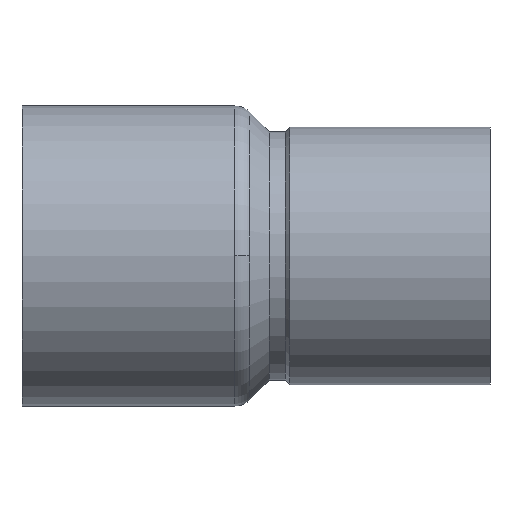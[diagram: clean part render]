
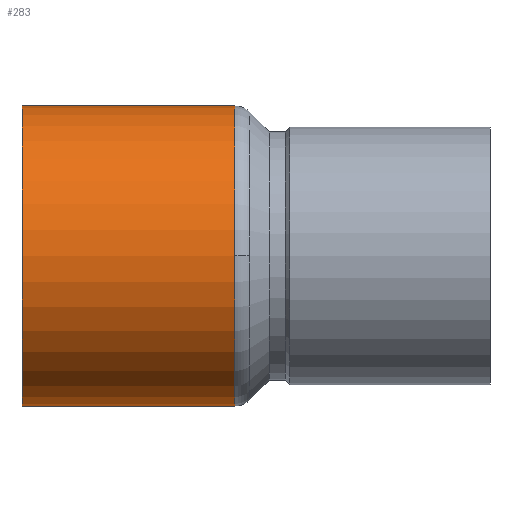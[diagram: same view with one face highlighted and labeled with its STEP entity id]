
A CAD part, top view. The second image highlights one B-rep face of the part: STEP entity #283.
In plain terms, the highlighted cylindrical face has radius 7.055 mm (diameter 14.11 mm), a partial arc.
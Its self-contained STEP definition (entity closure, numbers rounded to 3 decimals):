
#207=CARTESIAN_POINT('',(10.,7.055,0.0));
#208=VERTEX_POINT('',#207);
#216=CARTESIAN_POINT('',(10.0,0.,7.055));
#217=VERTEX_POINT('',#216);
#218=CARTESIAN_POINT('',(10.,0.0,0.0));
#219=DIRECTION('',(1.0,0.0,0.0));
#220=DIRECTION('',(0.0,1.0,0.0));
#221=AXIS2_PLACEMENT_3D('',#218,#219,#220);
#222=CIRCLE('',#221,7.055);
#223=EDGE_CURVE('',#208,#217,#222,.T.);
#243=CARTESIAN_POINT('',(5.,0.0,0.0));
#244=DIRECTION('',(1.0,0.0,0.0));
#245=DIRECTION('',(0.0,1.0,0.0));
#246=AXIS2_PLACEMENT_3D('',#243,#244,#245);
#247=CYLINDRICAL_SURFACE('',#246,7.055);
#248=CARTESIAN_POINT('',(0.0,7.055,0.0));
#249=VERTEX_POINT('',#248);
#250=CARTESIAN_POINT('',(0.0,7.055,0.0));
#251=DIRECTION('',(1.0,0.0,0.0));
#252=VECTOR('',#251,10.);
#253=LINE('',#250,#252);
#254=EDGE_CURVE('',#249,#208,#253,.T.);
#255=ORIENTED_EDGE('',*,*,#254,.F.);
#256=CARTESIAN_POINT('',(0.0,-7.055,0.));
#257=VERTEX_POINT('',#256);
#258=CARTESIAN_POINT('',(0.0,0.0,0.0));
#259=DIRECTION('',(1.0,0.0,0.0));
#260=DIRECTION('',(0.0,1.0,0.0));
#261=AXIS2_PLACEMENT_3D('',#258,#259,#260);
#262=CIRCLE('',#261,7.055);
#263=EDGE_CURVE('',#249,#257,#262,.T.);
#264=ORIENTED_EDGE('',*,*,#263,.T.);
#265=CARTESIAN_POINT('',(10.,-7.055,0.));
#266=VERTEX_POINT('',#265);
#267=CARTESIAN_POINT('',(10.,-7.055,0.));
#268=DIRECTION('',(-1.0,0.0,0.0));
#269=VECTOR('',#268,10.);
#270=LINE('',#267,#269);
#271=EDGE_CURVE('',#266,#257,#270,.T.);
#272=ORIENTED_EDGE('',*,*,#271,.F.);
#273=CARTESIAN_POINT('',(10.,0.0,0.0));
#274=DIRECTION('',(1.0,0.0,0.0));
#275=DIRECTION('',(0.0,1.0,0.0));
#276=AXIS2_PLACEMENT_3D('',#273,#274,#275);
#277=CIRCLE('',#276,7.055);
#278=EDGE_CURVE('',#217,#266,#277,.T.);
#279=ORIENTED_EDGE('',*,*,#278,.F.);
#280=ORIENTED_EDGE('',*,*,#223,.F.);
#281=EDGE_LOOP('',(#255,#264,#272,#279,#280));
#282=FACE_OUTER_BOUND('',#281,.T.);
#283=ADVANCED_FACE('',(#282),#247,.T.);
